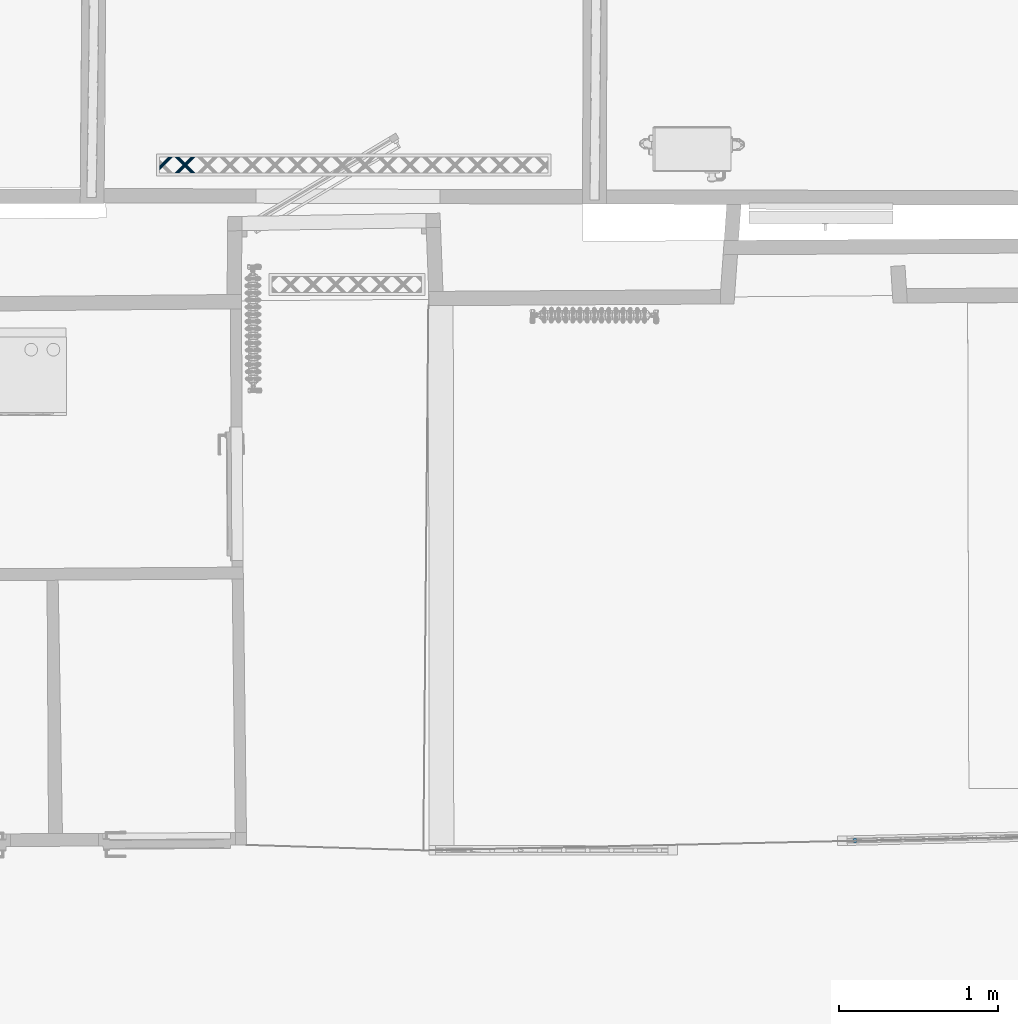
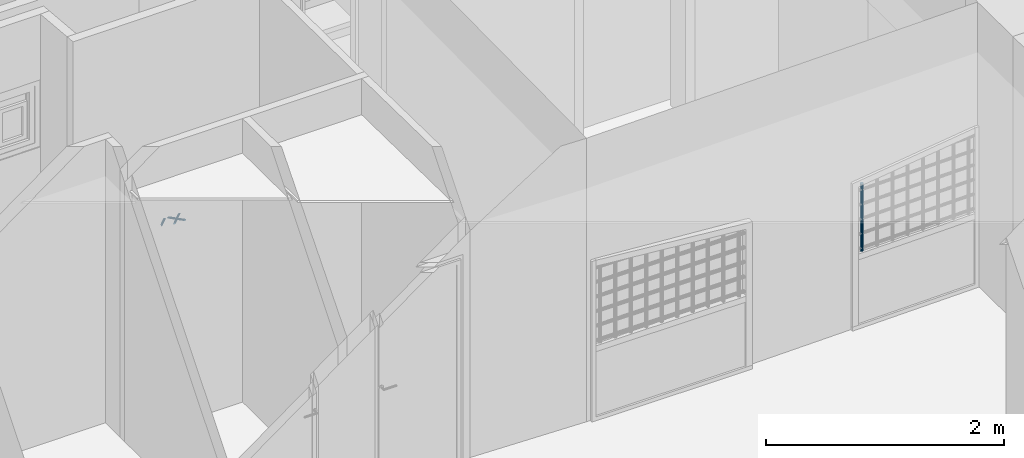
# One storey, part 60 of 133: 4 members, 2 elements without a shape of their own.
"""IFC2X3 building model written with IfcOpenShell, lengths in centimetres."""

from ifc_helpers import new_model, entity, si_unit, converted_unit, direction, frame, origin, origin_with_axes, place, context, subcontext, project, spatial, faceted_brep, material, type_object, element, aggregate, save


model = new_model("IFC2X3")

# Units and contexts
model_context = context("Model", 3, precision=0.0001, world=origin(), true_north=direction((0.225632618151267, 0.974212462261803, 0.0)))
body_context = subcontext(model_context, "Body", "Model", "MODEL_VIEW")
ifc_project = project(units=[si_unit("LENGTHUNIT", "METRE", prefix="CENTI"), si_unit("AREAUNIT", "SQUARE_METRE", prefix="CENTI"), si_unit("VOLUMEUNIT", "CUBIC_METRE", prefix="CENTI"), converted_unit("PLANEANGLEUNIT", "DEGREE", entity("IfcRatioMeasure", 0.0174532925), si_unit("PLANEANGLEUNIT", "RADIAN"), dimensions=[0, 0, 0, 0, 0, 0, 0])], contexts=[model_context])

# Site, building, storey
site_placement = place(None, origin_with_axes())
site = spatial("IfcSite", under=ifc_project, at=site_placement, Name="Default Site", CompositionType="ELEMENT")
building_placement = place(site_placement, origin_with_axes())
building = spatial("IfcBuilding", under=site, at=building_placement, Name="Default Building", CompositionType="ELEMENT")
storey_placement = place(building_placement, frame((0.0, 0.0, -291.400371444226), z_axis=(0.0, 0.0, 1.0), x_axis=(1.0, 0.0, 0.0)))
storey = spatial("IfcBuildingStorey", under=building, at=storey_placement, Name="Rez-de-Jardin", CompositionType="ELEMENT", Elevation=-291.400371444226)

# Assembly, member
building_element_proxy_type = type_object("IfcBuildingElementProxyType", Name="Type Object", PredefinedType="NOTDEFINED")
assembly_1_placement = place(storey_placement, frame((230.29031879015, 209.448968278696, 0.0), z_axis=(0.0, 0.0, 1.0), x_axis=(-0.999739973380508, -0.0228031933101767, 0.0)))
assembly_1 = element("IfcElementAssembly", 1, at=assembly_1_placement, inside=storey, type_object=building_element_proxy_type, Name="Panneau 76236", ObjectType="Precast panel", PredefinedType="USERDEFINED")
ifc_material_1 = material(Name="Noyer 01")
member_1_placement = place(assembly_1_placement, frame((115.409541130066, -2.48696978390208, 146.399331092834), z_axis=(0.112052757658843, -3.4247647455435e-06, 0.993702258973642), x_axis=(0.499207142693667, -0.864652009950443, -0.0562950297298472)))
member_1 = element("IfcMember", 2, at=member_1_placement, material=ifc_material_1, Name="4294966835", context=body_context, shape_type="Brep", body=[
    faceted_brep([(-4.44089209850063e-14, 7.7715611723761e-14, 8.88178419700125e-14), (-0.521771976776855, 8.8817841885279e-14, -2.06666517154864e-06), (-1.01305592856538, -0.179016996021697, -4.01257166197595e-06), (-1.41460021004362, -0.5154663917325, -5.60303196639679e-06), (-1.67796592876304, -0.968756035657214, -6.64618645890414e-06), (-1.77138801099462, -1.484213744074, -7.01621815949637e-06), (-1.68360827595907, -1.99968456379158, -6.668535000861e-06), (-1.42520268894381, -2.4529753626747, -5.64502689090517e-06), (-1.02734081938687, -2.78941607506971, -4.06915210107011e-06), (-0.538017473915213, -2.96843865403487, -2.13101129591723e-06), (-0.0162454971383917, -2.96843865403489, -6.43460355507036e-08), (0.475043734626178, -2.7894125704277, 1.88158136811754e-06), (0.876582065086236, -2.45297341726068, 3.4720181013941e-06), (1.13994778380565, -1.99968377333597, 4.51517259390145e-06), (1.23337581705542, -1.48421582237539, 4.88522786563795e-06), (1.14559080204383, -0.968754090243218, 4.53752379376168e-06), (0.887185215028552, -0.515463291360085, 3.51401568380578e-06), (0.489322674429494, -0.179023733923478, 1.93813823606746e-06), (4.39373487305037, 6.54055193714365, -68.9194536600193), (4.79217119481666, 6.20509986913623, -68.9295877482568), (5.05223034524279, 5.75465488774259, -68.9587728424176), (5.14254872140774, 5.24355312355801, -69.0034880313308), (5.05222850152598, 4.73343378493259, -69.058340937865), (4.79216923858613, 4.28583462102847, -69.11671421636), (4.39373872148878, 3.95474408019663, -69.1715670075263), (3.90498217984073, 3.78007680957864, -69.216285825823), (3.38486376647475, 3.78292262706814, -69.2454740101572), (2.89611487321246, 3.96293385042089, -69.2556116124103), (2.49767855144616, 4.2983859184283, -69.2454775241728), (2.23761940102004, 4.74883089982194, -69.216292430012), (2.14730697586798, 5.25994290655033, -69.1715759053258), (2.23762124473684, 5.77005200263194, -69.1167243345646), (2.49768050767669, 6.21765116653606, -69.0583510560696), (2.89611697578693, 6.5487519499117, -69.0034969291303), (3.3848675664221, 6.7234089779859, -68.9587794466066), (3.90498597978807, 6.7205631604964, -68.9295912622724), (0.48932267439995, -0.179023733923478, 9.39705606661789e-06), (0.887182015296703, -0.515467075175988, 2.9638270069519e-06), (4.79216799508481, 6.20509608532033, -68.9295882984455), (4.39373487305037, 6.54055193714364, -68.9194536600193), (0.887185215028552, -0.515463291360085, 3.51401570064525e-06), (1.14559082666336, -0.968754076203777, 6.60695309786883e-06), (5.05223036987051, 5.75465490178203, -68.9587728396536), (1.14559080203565, -0.968754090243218, 6.60418906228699e-06), (1.23337481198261, -1.48421599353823, 9.44061926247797e-06), (5.14254771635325, 5.24355295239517, -69.0034881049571), (1.23337581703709, -1.48421582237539, 9.51424561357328e-06), (1.1399495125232, -1.99968408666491, 1.48251203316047e-05), (5.05223023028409, 4.73343347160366, -69.058340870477), (5.14254872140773, 5.24355312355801, -69.0034880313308), (1.13994778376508, -1.99968377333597, 1.47577323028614e-05), (0.876582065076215, -2.45297341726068, 6.00205165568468e-06), (5.05222850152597, 4.7334337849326, -69.058340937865), (0.475045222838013, -2.78941434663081, 1.12720403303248e-05), (4.39374020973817, 3.95474230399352, -69.1715670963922), (0.475043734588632, -2.7894125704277, 1.13609062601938e-05), (-0.0162477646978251, -2.96843243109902, -7.26006574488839e-07), (3.90497991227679, 3.78008303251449, -69.2162853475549), (4.39373872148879, 3.95474408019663, -69.1715670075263), (-0.0162454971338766, -2.96843865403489, -1.20427472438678e-06), (-0.538017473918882, -2.96843862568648, -1.2015107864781e-06), (3.38486376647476, 3.78292265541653, -69.2454740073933), (3.90498217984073, 3.78007680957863, -69.216285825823), (-0.538017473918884, -2.96843865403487, -1.20427472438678e-06), (-1.02734252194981, -2.78942072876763, 6.94340565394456e-07), (2.89611317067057, 3.96292919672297, -69.2556121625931), (3.38486376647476, 3.78292262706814, -69.2454740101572), (-1.02734081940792, -2.78941607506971, 1.24452332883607e-06), (-1.42519948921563, -2.45297157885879, -4.16810164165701e-06), (2.49768175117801, 4.29838970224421, -69.2454769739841), (-1.42520268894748, -2.4529753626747, -4.71829033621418e-06), (-1.68360830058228, -1.99968457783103, -7.81122773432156e-06), (2.23761937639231, 4.7488308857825, -69.216292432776), (-1.68360827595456, -1.99968456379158, -7.80846369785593e-06), (-1.77139454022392, -1.48421485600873, 1.98480374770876e-06), (2.14730044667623, 5.2599417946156, -69.1715763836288), (-1.77138801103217, -1.484213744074, 2.46310674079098e-06), (-1.67796364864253, -0.968756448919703, -4.02727202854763e-06), (2.23762352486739, 5.77005158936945, -69.1167242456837), (-1.67796592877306, -0.968756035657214, -4.11615288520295e-06), (-1.41460021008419, -0.5154663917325, 4.63952776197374e-06), (2.4976805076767, 6.21765116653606, -69.0583510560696), (2.23762124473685, 5.77005200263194, -69.1167243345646), (-1.01305480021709, -0.179018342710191, 5.49069382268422e-07), (2.89611810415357, 6.5487506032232, -69.003496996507), (-1.01305592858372, -0.179016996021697, 6.16446094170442e-07), (-0.521772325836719, 9.57911864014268e-07, 7.36210777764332e-08), (3.38486721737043, 6.72340993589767, -68.9587793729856), (2.89611697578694, 6.5487519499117, -69.0034969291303), (-0.52177197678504, 8.88178419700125e-14, 8.88178419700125e-14), (-4.59637594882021e-14, -2.83483170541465e-08, -2.76385015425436e-09), (3.90498597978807, 6.72056313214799, -68.9295912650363), (3.3848675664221, 6.72340897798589, -68.9587794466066), (0.489324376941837, -0.179019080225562, 9.94723882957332e-06), (4.39373657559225, 6.54055659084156, -68.9194531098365), (3.90498597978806, 6.72056316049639, -68.9295912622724)], [[[0, 1, 2, 3, 4, 5, 6, 7, 8, 9, 10, 11, 12, 13, 14, 15, 16, 17]], [[18, 19, 20, 21, 22, 23, 24, 25, 26, 27, 28, 29, 30, 31, 32, 33, 34, 35]], [[36, 37, 38, 39]], [[40, 41, 42, 19]], [[43, 44, 45, 20]], [[46, 47, 48, 49]], [[50, 51, 23, 52]], [[51, 53, 54, 23]], [[55, 56, 57, 58]], [[59, 60, 61, 62]], [[63, 64, 65, 66]], [[67, 68, 69, 27]], [[70, 71, 72, 28]], [[73, 74, 75, 29]], [[76, 77, 78, 30]], [[79, 80, 81, 82]], [[80, 83, 84, 81]], [[85, 86, 87, 88]], [[89, 90, 91, 92]], [[0, 93, 94, 95]]]),
])
aggregate(assembly_1, [member_1])

# Assembly, members
assembly_2_placement = place(storey_placement, frame((-322.682568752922, 627.125798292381, 0.0), z_axis=(0.0, 1.0, -2.38697950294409e-15), x_axis=(1.0, 0.0, 0.0)))
assembly_2 = element("IfcElementAssembly", 3, at=assembly_2_placement, inside=storey, type_object=building_element_proxy_type, Name="Panneau 92029", ObjectType="Precast panel", PredefinedType="USERDEFINED")
ifc_material_2 = material(Name="Aluminium satiné")
member_2_placement = place(assembly_2_placement, frame((10.1207733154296, 0.342020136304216, 11.9999997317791), z_axis=(1.16937634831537e-15, -1.43218776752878e-15, 1.0), x_axis=(0.632455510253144, -0.774596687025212, -1.84894641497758e-15)))
member_2 = element("IfcMember", 4, at=member_2_placement, material=ifc_material_2, Name="4294966831", context=body_context, shape_type="Brep", body=[
    faceted_brep([(-1.11022302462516e-14, 0.0, -7.07767178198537e-14), (-0.388289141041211, -4.05796310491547e-46, -7.14946436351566e-14), (-0.799165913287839, -0.150249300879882, -7.22543327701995e-14), (-1.18307196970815, -0.43262487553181, -7.29641544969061e-14), (-1.49370326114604, -0.813068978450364, -7.353849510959e-14), (-1.69359292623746, -1.245694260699, -7.39080803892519e-14), (-1.7586311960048, -1.67831950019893, -7.40283326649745e-14), (-1.68097334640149, -2.05876360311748, -7.38847474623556e-14), (-1.46998625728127, -2.34113956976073, -7.34946436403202e-14), (-1.1511180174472, -2.49138864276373, -7.29050733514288e-14), (-0.762828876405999, -2.49138864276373, -7.2187147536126e-14), (-0.35195210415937, -2.34113934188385, -7.1427458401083e-14), (0.0319544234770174, -2.05876319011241, -7.07176358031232e-14), (0.342585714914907, -1.67831908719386, -7.01432951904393e-14), (0.542474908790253, -1.24569438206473, -6.97737107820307e-14), (0.607513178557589, -0.813069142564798, -6.9653458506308e-14), (0.529855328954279, -0.432625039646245, -6.97970437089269e-14), (0.318868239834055, -0.150249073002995, -7.01871475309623e-14), (-4.87110019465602, -6.50663666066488, -8.20606052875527), (-4.60617253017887, -6.72294918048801, -8.12077298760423), (-4.37319903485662, -6.91317123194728, -7.87519738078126), (-4.20027978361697, -7.05435920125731, -7.49895386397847), (-4.10827135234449, -7.12948376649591, -7.03742243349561), (-4.10827135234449, -7.12948376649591, -6.54627121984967), (-4.20027978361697, -7.05435920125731, -6.08474016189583), (-4.37319903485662, -6.91317123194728, -5.70849627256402), (-4.60617253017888, -6.72294918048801, -5.46292066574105), (-4.87110019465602, -6.50663666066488, -5.37763312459), (-5.13602785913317, -6.29032414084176, -5.46292066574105), (-5.36900135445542, -6.10010208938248, -5.70849627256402), (-5.54192060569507, -5.95891412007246, -6.08474016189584), (-5.63392903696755, -5.88378955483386, -6.54627121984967), (-5.63392903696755, -5.88378955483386, -7.03742243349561), (-5.54192060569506, -5.95891412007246, -7.49895386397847), (-5.36900135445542, -6.10010208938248, -7.87519738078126), (-5.13602785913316, -6.29032414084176, -8.12077298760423), (0.318868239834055, -0.150249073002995, -7.07767178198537e-14), (0.529855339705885, -0.432625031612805, -1.3022659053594e-08), (-4.60617237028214, -6.72294906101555, -8.12077318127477), (-4.87110004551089, -6.50663654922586, -8.20606070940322), (0.529855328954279, -0.432625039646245, -7.07767178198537e-14), (0.607513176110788, -0.81306914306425, 1.93429567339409e-09), (-4.37319886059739, -6.91317119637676, -7.87519751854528), (-4.60617235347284, -6.72294914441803, -8.12077312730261), (0.607513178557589, -0.813069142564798, -7.07767178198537e-14), (0.542475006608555, -1.24569439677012, -5.04750523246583e-08), (-4.20027968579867, -7.05435921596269, -7.49895391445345), (-4.37319888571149, -6.91317125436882, -7.87519745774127), (0.542474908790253, -1.24569438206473, -7.07767178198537e-14), (0.342585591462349, -1.678319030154, 3.3895294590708e-08), (-4.10827131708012, -7.12948378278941, -7.03742244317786), (0.342585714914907, -1.67831908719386, -7.07767178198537e-14), (0.0319544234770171, -2.05876319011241, -7.21644966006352e-14), (0.0319544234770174, -2.05876319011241, -7.21644966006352e-14), (-0.351952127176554, -2.34113931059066, -9.68232392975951e-09), (-4.20027985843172, -7.05435909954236, -6.08474019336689), (-4.10827145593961, -7.12948362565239, -6.54627126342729), (-0.35195210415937, -2.34113934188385, -7.21644966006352e-14), (-0.76282891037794, -2.49138854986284, -5.04750547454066e-08), (-4.37319912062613, -6.91317099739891, -5.70849639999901), (-4.20027983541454, -7.05435905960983, -6.08474023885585), (-0.762828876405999, -2.49138864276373, -7.35522753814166e-14), (-1.1511180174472, -2.49138864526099, 1.93429135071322e-09), (-4.60617253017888, -6.72294900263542, -5.46292080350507), (-4.37319903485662, -6.91317105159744, -5.7084964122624), (-1.1511180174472, -2.49138864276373, -7.49400541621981e-14), (-1.46998625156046, -2.34113955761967, -1.30226640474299e-08), (-4.87110010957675, -6.50663648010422, -5.37763331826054), (-4.60617245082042, -6.72294901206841, -5.462920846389), (-1.46998625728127, -2.34113956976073, -7.49400541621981e-14), (-1.68097335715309, -2.05876361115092, 1.30225132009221e-08), (-5.13602772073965, -6.29032403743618, -5.46292083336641), (-4.8711000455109, -6.50663654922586, -5.37763330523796), (-1.68097334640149, -2.05876360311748, -7.49400541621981e-14), (-1.758631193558, -1.67831949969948, -1.93444176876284e-09), (-5.36900117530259, -6.10010205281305, -5.70849641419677), (-5.13602768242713, -6.29032410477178, -5.46292080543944), (-1.7586311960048, -1.67831950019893, -7.63278329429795e-14), (-1.69359302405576, -1.24569424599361, 5.04749059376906e-08), (-5.54192055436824, -5.95891412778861, -6.08474018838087), (-5.36900120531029, -6.10010211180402, -5.70849634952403), (-1.69359292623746, -1.245694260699, -7.49400541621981e-14), (-1.49370329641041, -0.81306896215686, 9.68217695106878e-09), (-5.63392891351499, -5.88378961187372, -6.54627125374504), (-5.5419205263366, -5.95891415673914, -6.08474018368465), (-1.49370326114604, -0.813068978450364, -7.49400541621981e-14), (-1.18307196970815, -0.43262487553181, -7.35522753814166e-14), (-0.799165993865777, -0.150249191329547, -3.38954390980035e-08), (-5.541920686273, -5.95891401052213, -7.49895389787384), (-5.63392914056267, -5.88378941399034, -7.03742247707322), (-0.799165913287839, -0.150249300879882, -7.35522753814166e-14), (-0.388289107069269, -9.29008909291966e-08, 5.04749073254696e-08), (-5.36900137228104, -6.1001020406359, -7.87519740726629), (-0.388289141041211, 0.0, -7.35522753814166e-14), (-1.11279277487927e-14, 2.4972568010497e-09, -1.93443760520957e-09), (-5.13602785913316, -6.29032395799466, -8.12077312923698), (-5.36900135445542, -6.10010190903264, -7.87519752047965), (0.318868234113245, -0.150249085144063, 1.30225181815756e-08), (-4.87110012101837, -6.50663650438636, -8.20606069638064), (-5.1360277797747, -6.29032397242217, -8.12077316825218)], [[[0, 1, 2, 3, 4, 5, 6, 7, 8, 9, 10, 11, 12, 13, 14, 15, 16, 17]], [[18, 19, 20, 21, 22, 23, 24, 25, 26, 27, 28, 29, 30, 31, 32, 33, 34, 35]], [[36, 37, 38, 39]], [[40, 41, 42, 43]], [[44, 45, 46, 47]], [[48, 49, 50, 21]], [[51, 52, 23, 22]], [[53, 54, 55, 56]], [[57, 58, 59, 60]], [[61, 62, 63, 64]], [[65, 66, 67, 68]], [[69, 70, 71, 72]], [[73, 74, 75, 76]], [[77, 78, 79, 80]], [[81, 82, 83, 84]], [[85, 86, 32, 31]], [[86, 87, 88, 89]], [[90, 91, 92, 33]], [[93, 94, 95, 96]], [[0, 97, 98, 99]]]),
])
member_3_placement = place(assembly_2_placement, frame((24.2629095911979, 0.342020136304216, 11.9999997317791), z_axis=(1.16937634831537e-15, -1.43218776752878e-15, 1.0), x_axis=(0.632455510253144, -0.774596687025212, -1.84894641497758e-15)))
member_3 = element("IfcMember", 5, at=member_3_placement, material=ifc_material_2, Name="4294966830", context=body_context, shape_type="Brep", body=[
    faceted_brep([(0.0, -4.44089209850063e-14, -5.55111512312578e-14), (-0.388289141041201, -4.44089209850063e-14, -5.62290770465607e-14), (-0.79916591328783, -0.150249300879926, -5.69887661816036e-14), (-1.18307291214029, -0.432626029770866, -5.76985896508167e-14), (-1.49370420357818, -0.81307013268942, -5.82729302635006e-14), (-1.69359339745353, -1.24569483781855, -5.86425146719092e-14), (-1.75863166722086, -1.67832007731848, -5.87627669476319e-14), (-1.68097381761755, -2.05876418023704, -5.8619181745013e-14), (-1.46998625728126, -2.34113956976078, -5.82290770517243e-14), (-1.15111848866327, -2.49138921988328, -5.76395076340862e-14), (-0.762829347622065, -2.49138921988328, -5.69215818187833e-14), (-0.351952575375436, -2.3411399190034, -5.61618926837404e-14), (0.0319534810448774, -2.05876434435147, -5.54520709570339e-14), (0.342584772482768, -1.67832024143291, -5.48777303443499e-14), (0.542474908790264, -1.24569438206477, -5.45081441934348e-14), (0.607513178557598, -0.813069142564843, -5.43878919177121e-14), (0.529855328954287, -0.432625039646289, -5.4531477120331e-14), (0.318867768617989, -0.150249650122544, -5.49215818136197e-14), (-6.00568695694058, -7.89621605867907, -9.99999977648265), (-5.79470033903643, -8.17859260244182, -9.99999977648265), (-5.71704248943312, -8.55903670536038, -9.99999977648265), (-5.78208075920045, -8.99166194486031, -9.99999977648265), (-5.9819699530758, -9.42428664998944, -9.99999977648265), (-6.29260124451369, -9.80473075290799, -9.99999977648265), (-6.67650777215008, -10.0871069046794, -9.99999977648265), (-7.08738407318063, -10.2373556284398, -9.99999977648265), (-7.47567321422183, -10.2373556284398, -9.99999977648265), (-7.7945414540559, -10.0871065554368, -9.99999977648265), (-8.00552854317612, -9.80473058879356, -9.99999977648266), (-8.08318639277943, -9.42428648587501, -9.99999977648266), (-8.01814859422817, -8.99166182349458, -9.99999977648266), (-7.81825892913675, -8.55903654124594, -9.99999977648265), (-7.50762763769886, -8.17859243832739, -9.99999977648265), (-7.12372158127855, -7.89621686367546, -9.99999977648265), (-6.71284480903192, -7.74596756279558, -9.99999977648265), (-6.32455566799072, -7.74596756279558, -9.99999977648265), (0.318867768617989, -0.150249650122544, -5.41233724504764e-14), (0.52985504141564, -0.432625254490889, 3.48273261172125e-07), (-5.7947001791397, -8.17859248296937, -9.99999997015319), (-6.0056871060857, -7.89621617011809, -9.9999995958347), (0.529855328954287, -0.432625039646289, -5.55111512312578e-14), (0.607513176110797, -0.813069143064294, 1.93431179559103e-09), (-5.71704196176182, -8.5590365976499, -10.0000001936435), (-5.79469980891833, -8.1785924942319, -10.0000001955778), (0.607513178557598, -0.813069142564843, -5.41233724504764e-14), (0.542475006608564, -1.24569439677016, -5.04750344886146e-08), (-5.78208021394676, -8.9916620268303, -10.0000000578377), (-5.71704204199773, -8.55903677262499, -10.0000000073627), (0.542474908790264, -1.24569438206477, -5.41233724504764e-14), (0.342584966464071, -1.67832033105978, -5.32599233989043e-08), (-5.98196983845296, -9.42428670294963, -9.99999980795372), (-5.78208052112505, -8.99166205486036, -9.99999984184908), (0.342584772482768, -1.67832024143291, -5.41233724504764e-14), (0.0319534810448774, -2.05876434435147, -5.55111512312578e-14), (-6.29260124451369, -9.804730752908, -9.99999977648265), (-0.3519524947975, -2.34114002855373, 3.38953094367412e-08), (-6.6765077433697, -10.087106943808, -9.9999997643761), (-6.29260119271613, -9.80473082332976, -9.99999975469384), (-0.351952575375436, -2.3411399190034, -5.55111512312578e-14), (-0.762829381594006, -2.49138912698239, -5.04750373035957e-08), (-7.08738405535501, -10.2373556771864, -9.99999974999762), (-6.67650782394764, -10.087106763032, -9.99999985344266), (-0.762829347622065, -2.49138921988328, -5.68989300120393e-14), (-1.15111848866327, -2.49138922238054, 1.93430821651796e-09), (-7.47567321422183, -10.2373558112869, -9.9999996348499), (-7.08738407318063, -10.2373558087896, -9.99999963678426), (-1.15111848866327, -2.49138921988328, -5.82867087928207e-14), (-1.46998641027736, -2.3411398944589, 3.48273257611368e-07), (-7.79454152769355, -10.0871067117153, -9.99999960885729), (-7.47567329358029, -10.2373557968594, -9.9999995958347), (-1.46998625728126, -2.34113956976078, -5.82867087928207e-14), (-1.68097353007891, -2.05876396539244, -3.48273374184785e-07), (-8.0055284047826, -9.80473048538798, -9.99999994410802), (-7.79454130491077, -10.0871064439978, -9.99999995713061), (-1.68097381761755, -2.05876418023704, -5.82867087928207e-14), (-1.75863166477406, -1.67832007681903, -1.93442575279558e-09), (-8.08318656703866, -9.42428652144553, -9.99999963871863), (-8.00552871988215, -9.80473062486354, -9.99999963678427), (-1.75863166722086, -1.67832007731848, -5.96744875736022e-14), (-1.69359349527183, -1.24569482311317, 5.04749219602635e-08), (-8.01814854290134, -8.99166183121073, -9.99999980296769), (-8.08318654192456, -9.42428646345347, -9.99999969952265), (-1.69359339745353, -1.24569483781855, -5.82867087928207e-14), (-1.49370408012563, -0.813070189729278, -3.38954235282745e-08), (-7.81825888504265, -8.55903656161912, -9.99999978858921), (-8.0181485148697, -8.99166186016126, -9.99999979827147), (-1.49370420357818, -0.81307013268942, -5.82867087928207e-14), (-1.18307291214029, -0.432626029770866, -5.68989300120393e-14), (-7.81825892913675, -8.55903654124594, -9.99999977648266), (-0.799165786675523, -0.150249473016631, 5.32598125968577e-08), (-7.12372161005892, -7.89621682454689, -9.99999978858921), (-7.50762758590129, -8.17859250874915, -9.99999975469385), (-0.79916591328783, -0.150249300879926, -5.68989300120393e-14), (-0.38828910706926, -9.29009351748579e-08, 5.04749238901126e-08), (-6.71284493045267, -7.74596723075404, -9.99999995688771), (-7.12372173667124, -7.89621643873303, -10.0000000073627), (-0.388289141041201, -4.44089209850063e-14, -5.68989300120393e-14), (-2.56974956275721e-17, 2.4972117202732e-09, -1.93442181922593e-09), (-6.32455566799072, -7.7459670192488, -10.0000001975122), (-6.71284480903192, -7.74596702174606, -10.0000001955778), (0.318867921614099, -0.150249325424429, -3.48273370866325e-07), (-6.00568688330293, -7.89621590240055, -9.99999994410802), (-6.32455542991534, -7.74596705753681, -10.0000003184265)], [[[0, 1, 2, 3, 4, 5, 6, 7, 8, 9, 10, 11, 12, 13, 14, 15, 16, 17]], [[18, 19, 20, 21, 22, 23, 24, 25, 26, 27, 28, 29, 30, 31, 32, 33, 34, 35]], [[36, 37, 38, 39]], [[40, 41, 42, 43]], [[44, 45, 46, 47]], [[48, 49, 50, 51]], [[52, 53, 54, 22]], [[53, 55, 56, 57]], [[58, 59, 60, 61]], [[62, 63, 64, 65]], [[66, 67, 68, 69]], [[70, 71, 72, 73]], [[74, 75, 76, 77]], [[78, 79, 80, 81]], [[82, 83, 84, 85]], [[86, 87, 32, 88]], [[87, 89, 90, 91]], [[92, 93, 94, 95]], [[96, 97, 98, 99]], [[0, 100, 101, 102]]]),
])
member_4_placement = place(assembly_2_placement, frame((21.6050565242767, 0.342020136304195, 1.99999995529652), z_axis=(1.16937634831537e-15, 1.43218776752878e-15, -1.0), x_axis=(-0.632455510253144, -0.774596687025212, -1.84894641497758e-15)))
member_4 = element("IfcMember", 6, at=member_4_placement, material=ifc_material_2, Name="4294966797", context=body_context, shape_type="Brep", body=[
    faceted_brep([(-9.71445146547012e-14, 4.71844785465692e-14, 2.02268757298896e-13), (-0.388289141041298, 4.71844785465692e-14, 2.02986683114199e-13), (-0.799165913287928, -0.150249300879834, 2.03746372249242e-13), (-1.18307196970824, -0.432624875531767, 2.04456193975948e-13), (-1.49370326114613, -0.813068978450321, 2.05030534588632e-13), (-1.69359339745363, -1.24569483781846, 2.05400120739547e-13), (-1.75863166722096, -1.67832007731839, 2.0552037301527e-13), (-1.68097381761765, -2.05876418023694, 2.05376787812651e-13), (-1.46998625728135, -2.34113956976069, 2.04986683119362e-13), (-1.15111848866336, -2.49138921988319, 2.04397113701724e-13), (-0.762829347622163, -2.49138921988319, 2.03679187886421e-13), (-0.351952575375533, -2.34113991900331, 2.02919498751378e-13), (0.0319544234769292, -2.05876319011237, 2.02209675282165e-13), (0.34258571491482, -1.67831908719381, 2.01635334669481e-13), (0.542474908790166, -1.24569438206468, 2.01265750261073e-13), (0.607513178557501, -0.813069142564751, 2.0114549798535e-13), (0.52985532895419, -0.432625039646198, 2.01289083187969e-13), (0.318867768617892, -0.150249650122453, 2.01679187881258e-13), (6.64342296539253, 7.59571733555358, -9.9999997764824), (6.85441005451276, 7.31334136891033, -9.9999997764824), (6.93206790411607, 6.93289726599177, -9.9999997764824), (6.86703010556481, 6.50027260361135, -9.9999997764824), (6.66714044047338, 6.06764732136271, -9.9999997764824), (6.35650914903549, 5.68720321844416, -9.9999997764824), (5.97260309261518, 5.40482764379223, -9.9999997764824), (5.56172632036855, 5.25457834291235, -9.99999977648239), (5.17343717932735, 5.25457834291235, -9.99999977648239), (4.85456846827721, 5.40482683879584, -9.99999977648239), (4.64358185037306, 5.68720338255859, -9.99999977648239), (4.56592400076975, 6.06764748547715, -9.99999977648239), (4.63096227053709, 6.50027272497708, -9.99999977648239), (4.83085146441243, 6.93289743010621, -9.99999977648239), (5.14148275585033, 7.31334153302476, -9.99999977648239), (5.52538928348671, 7.59571768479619, -9.99999977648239), (5.93626558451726, 7.74596640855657, -9.9999997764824), (6.32455472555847, 7.74596640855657, -9.9999997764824), (0.318867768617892, -0.150249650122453, 2.019218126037e-13), (0.529855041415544, -0.432625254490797, -3.48273114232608e-07), (6.85440991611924, 7.31334126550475, -9.99999994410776), (6.64342281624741, 7.59571722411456, -9.99999995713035), (0.52985532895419, -0.432625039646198, 2.01574867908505e-13), (0.607513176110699, -0.813069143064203, -1.93416508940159e-09), (6.9320680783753, 6.9328973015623, -9.99999963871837), (6.85441023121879, 7.3133414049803, -9.99999963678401), (0.607513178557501, -0.813069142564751, 2.0122792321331e-13), (0.542475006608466, -1.24569439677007, 5.04751816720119e-08), (6.86703005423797, 6.5002726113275, -9.99999980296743), (6.93206805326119, 6.93289724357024, -9.99999969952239), (0.542474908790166, -1.24569438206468, 2.0122792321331e-13), (0.342585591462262, -1.67831903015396, -3.38951636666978e-08), (6.66714039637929, 6.06764734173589, -9.99999978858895), (6.86703002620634, 6.50027264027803, -9.99999979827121), (0.34258571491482, -1.67831908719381, 2.01574867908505e-13), (0.0319544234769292, -2.05876319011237, 2.02268757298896e-13), (-0.351952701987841, -2.3411397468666, 5.32600725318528e-08), (5.97260312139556, 5.40482760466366, -9.99999978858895), (6.35650909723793, 5.68720328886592, -9.99999975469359), (-0.351952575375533, -2.34113991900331, 2.02962646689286e-13), (-0.762829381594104, -2.4913891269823, 5.04751842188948e-08), (5.5617264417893, 5.25457801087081, -9.99999995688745), (5.97260324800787, 5.4048272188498, -10.0000000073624), (-0.762829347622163, -2.49138921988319, 2.03656536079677e-13), (-1.15111848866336, -2.49138922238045, -1.93416159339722e-09), (5.17343717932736, 5.25457779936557, -10.0000001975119), (5.56172632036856, 5.25457780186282, -10.0000001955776), (-1.15111848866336, -2.49138921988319, 2.04697370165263e-13), (-1.46998641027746, -2.3411398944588, -3.48273111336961e-07), (4.85456839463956, 5.40482668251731, -9.99999994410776), (5.17343694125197, 5.25457783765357, -10.0000003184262), (-1.46998625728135, -2.34113956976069, 2.05044314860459e-13), (-1.680973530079, -2.05876396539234, 3.48273521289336e-07), (4.64358169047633, 5.68720326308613, -9.99999997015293), (4.85456861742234, 5.40482695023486, -9.99999959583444), (-1.68097381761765, -2.05876418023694, 2.05391259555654e-13), (-1.75863166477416, -1.67832007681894, 1.934572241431e-09), (4.56592347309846, 6.06764737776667, -10.0000001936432), (4.64358132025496, 5.68720327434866, -10.0000001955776), (-1.75863166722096, -1.67832007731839, 2.05738204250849e-13), (-1.69359349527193, -1.24569482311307, -5.04747745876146e-08), (4.6309617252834, 6.50027280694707, -10.0000000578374), (4.56592355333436, 6.06764755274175, -10.0000000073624), (-1.69359339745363, -1.24569483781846, 2.05738204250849e-13), (-1.49370345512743, -0.813068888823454, -5.32596641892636e-08), (4.8308513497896, 6.93289748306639, -9.99999980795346), (4.63096203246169, 6.50027283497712, -9.99999984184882), (-1.49370326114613, -0.813068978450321, 2.05044314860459e-13), (-1.18307196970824, -0.432624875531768, 2.04350425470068e-13), (5.14148275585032, 7.31334153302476, -9.99999977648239), (-1.18307196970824, -0.432624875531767, 2.04350425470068e-13), (-0.799165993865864, -0.150249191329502, 3.38955689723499e-08), (5.52538925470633, 7.59571772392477, -9.99999976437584), (5.14148270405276, 7.31334160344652, -9.99999975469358), (-0.799165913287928, -0.150249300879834, 2.04003480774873e-13), (-0.388289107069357, -9.29008433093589e-08, -5.04747773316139e-08), (5.93626556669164, 7.74596645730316, -9.99999974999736), (5.52538933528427, 7.59571754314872, -9.99999985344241), (-0.388289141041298, 4.71844785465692e-14, 2.03309591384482e-13), (-9.71702121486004e-14, 2.49730314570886e-09, 1.93456844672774e-09), (6.32455472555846, 7.74596659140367, -9.99999963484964), (5.93626558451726, 7.74596658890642, -9.999999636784), (0.318867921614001, -0.150249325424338, 3.48273518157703e-07), (6.64342303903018, 7.5957174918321, -9.99999960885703), (6.32455480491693, 7.74596657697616, -9.99999959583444)], [[[0, 1, 2, 3, 4, 5, 6, 7, 8, 9, 10, 11, 12, 13, 14, 15, 16, 17]], [[18, 19, 20, 21, 22, 23, 24, 25, 26, 27, 28, 29, 30, 31, 32, 33, 34, 35]], [[36, 37, 38, 39]], [[40, 41, 42, 43]], [[44, 45, 46, 47]], [[48, 49, 50, 51]], [[52, 53, 23, 22]], [[53, 54, 55, 56]], [[57, 58, 59, 60]], [[61, 62, 63, 64]], [[65, 66, 67, 68]], [[69, 70, 71, 72]], [[73, 74, 75, 76]], [[77, 78, 79, 80]], [[81, 82, 83, 84]], [[85, 86, 87, 31]], [[88, 89, 90, 91]], [[92, 93, 94, 95]], [[96, 97, 98, 99]], [[0, 100, 101, 102]]]),
])
aggregate(assembly_2, [member_2, member_3, member_4])

save(model, "model.ifc")
